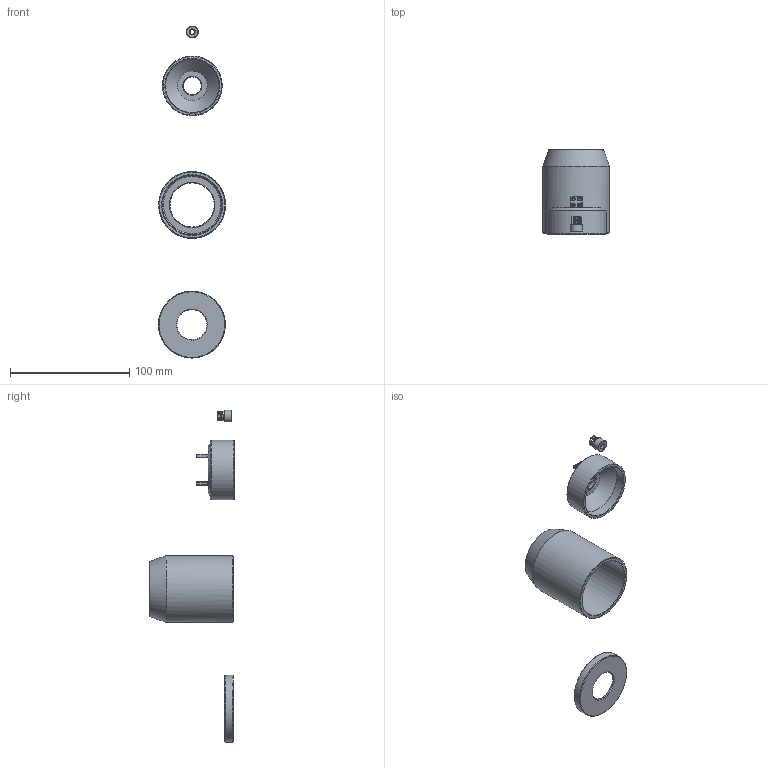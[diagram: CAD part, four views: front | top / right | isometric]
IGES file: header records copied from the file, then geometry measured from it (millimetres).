
Global section: file name: Tower Header for 50MM pipe v1; native system: unknown; preprocessor: unknown; author: unknown; organization: unknown; date: 20161218.122934; units: millimetre
Bounding box: 56.18 x 70.99 x 278.15 mm (x, y, z)
Volume: 72454.7 mm3; surface area: 39793.4 mm2
Topology: 8 solids, 9 shells, 250 faces, 560 edges, 305 vertices
Faces by surface type: bspline 250
